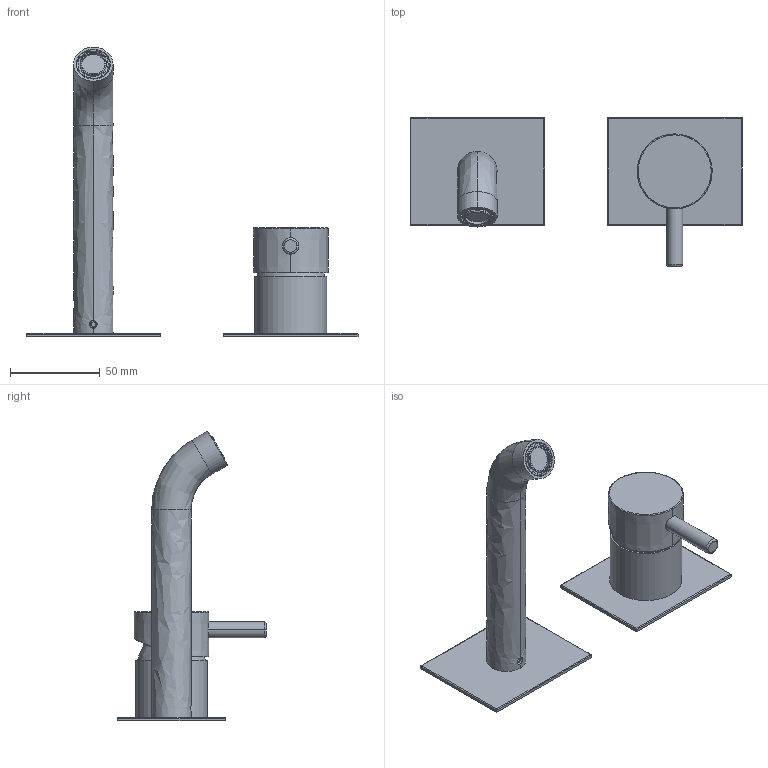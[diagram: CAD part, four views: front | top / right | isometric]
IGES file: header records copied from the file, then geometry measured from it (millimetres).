
Start section:  PTC IGES file: 12549B.igs
Global section: file name: 12549B.igs; native system: Creo Parametric by PTC Inc.; preprocessor: 2022014; author: carloff; organization: Unknown; date: 20240319.154417; units: millimetre
Bounding box: 185 x 82.9 x 161.53 mm (x, y, z)
Surface area: 86990.3 mm2 (no closed solid volume)
Topology: 0 solids, 0 shells, 915 faces, 5186 edges, 5182 vertices
Faces by surface type: revolution 530, bspline 385
